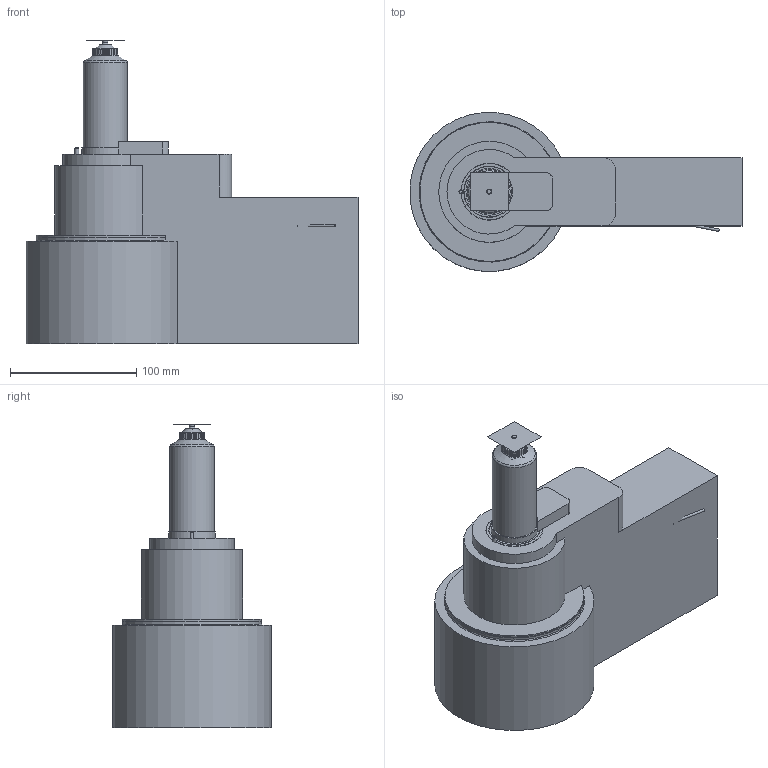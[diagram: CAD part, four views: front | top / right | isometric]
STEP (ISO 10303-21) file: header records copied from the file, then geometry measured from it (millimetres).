
FILE_DESCRIPTION (( 'STEP AP214' ), '1' );
FILE_NAME ('12SVP-06_VSW.STEP', '2020-11-16T10:03:52', ( '' ), ( '' ), 'SwSTEP 2.0', 'SolidWorks 2018', '' );
FILE_SCHEMA (( 'AUTOMOTIVE_DESIGN' ));
Length unit declared in the file: millimetre
Products named in the file (3): 12svp-06_cutout_VSW; 12SVP-06_VSW; nozzle_VSW
Assembly tree (2 placements, depth 2):
  12SVP-06_VSW
    12svp-06_cutout_VSW
    nozzle_VSW
Bounding box: 262.76 x 125.56 x 240.3 mm (x, y, z)
Volume: 1128709.1 mm3; surface area: 387895.6 mm2
Topology: 17 solids, 34 shells, 1721 faces, 4394 edges, 2860 vertices
Faces by surface type: plane 846, cylinder 354, bspline 338, cone 119, torus 60, sphere 4
Full cylindrical faces by diameter (mm): 1 x8, 2 x5, 2.3 x1, 2.5 x5, 3 x9, 3.301 x2, 3.4 x4, 3.9 x1, 4 x10, 4.1 x1, 4.2 x4, 4.3 x1, 4.5 x3, 5 x9, 5.5 x18, 5.998 x1, 6 x4, 6.5 x1, 7 x2, 8 x2, 8.5 x8, 9 x1, 10 x2, 10.1 x1, 10.376 x2, 11 x1, 19.5 x1, 20 x3, 21 x1, 24 x1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
Entity records: 91222 total; most frequent: CARTESIAN_POINT 52889, ORIENTED_EDGE 8140, DIRECTION 6528, EDGE_CURVE 4072, VERTEX_POINT 2773, AXIS2_PLACEMENT_3D 2263, EDGE_LOOP 2166, LINE 2002
